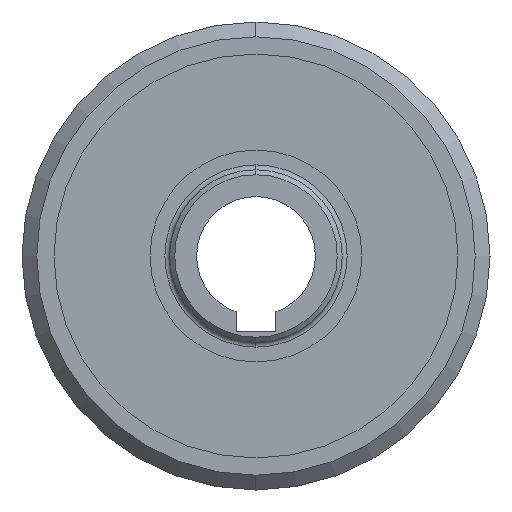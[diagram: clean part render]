
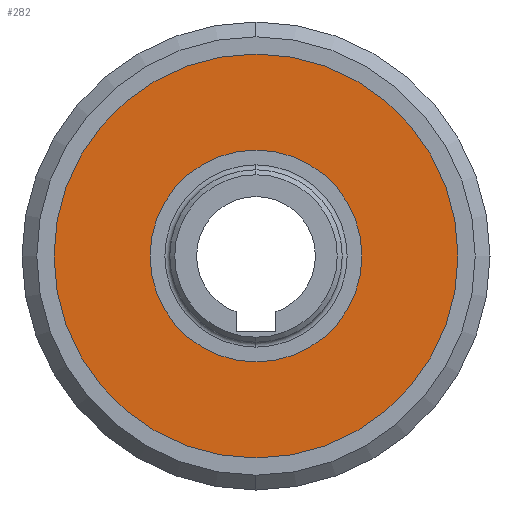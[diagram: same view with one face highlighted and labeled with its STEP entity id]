
A CAD part, left-side view. The second image highlights one B-rep face of the part: STEP entity #282.
In plain terms, the highlighted planar face has unit normal (-1, 0, 0).
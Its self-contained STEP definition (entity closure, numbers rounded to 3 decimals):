
#9 = DIRECTION ( 'NONE',  ( 1., 0., 0. ) ) ;
#26 = EDGE_CURVE ( 'NONE', #683, #30, #72, .T. ) ;
#30 = VERTEX_POINT ( 'NONE', #976 ) ;
#72 = CIRCLE ( 'NONE', #894, 21.5 ) ;
#142 = VERTEX_POINT ( 'NONE', #999 ) ;
#188 = VERTEX_POINT ( 'NONE', #752 ) ;
#228 = CARTESIAN_POINT ( 'NONE',  ( -89.5, 0., 0. ) ) ;
#240 = ORIENTED_EDGE ( 'NONE', *, *, #26, .F. ) ;
#249 = FACE_OUTER_BOUND ( 'NONE', #518, .T. ) ;
#255 = CARTESIAN_POINT ( 'NONE',  ( -89.5, 0., 0. ) ) ;
#278 = DIRECTION ( 'NONE',  ( -1., 0., 0. ) ) ;
#282 = ADVANCED_FACE ( 'NONE', ( #249, #605 ), #792, .F. ) ;
#307 = ORIENTED_EDGE ( 'NONE', *, *, #355, .T. ) ;
#352 = DIRECTION ( 'NONE',  ( 0., 0., -1. ) ) ;
#355 = EDGE_CURVE ( 'NONE', #188, #142, #823, .T. ) ;
#369 = EDGE_CURVE ( 'NONE', #30, #683, #847, .T. ) ;
#455 = AXIS2_PLACEMENT_3D ( 'NONE', #699, #278, #1038 ) ;
#518 = EDGE_LOOP ( 'NONE', ( #1008, #307 ) ) ;
#520 = EDGE_LOOP ( 'NONE', ( #240, #536 ) ) ;
#532 = CARTESIAN_POINT ( 'NONE',  ( -89.5, 0., 21.5 ) ) ;
#536 = ORIENTED_EDGE ( 'NONE', *, *, #369, .F. ) ;
#551 = DIRECTION ( 'NONE',  ( -1., 0., 0. ) ) ;
#599 = AXIS2_PLACEMENT_3D ( 'NONE', #255, #9, #352 ) ;
#605 = FACE_BOUND ( 'NONE', #520, .T. ) ;
#632 = CARTESIAN_POINT ( 'NONE',  ( -89.5, 0., 0. ) ) ;
#683 = VERTEX_POINT ( 'NONE', #532 ) ;
#694 = AXIS2_PLACEMENT_3D ( 'NONE', #228, #1097, #1083 ) ;
#699 = CARTESIAN_POINT ( 'NONE',  ( -89.5, 0., 0. ) ) ;
#752 = CARTESIAN_POINT ( 'NONE',  ( -89.5, 0., 41. ) ) ;
#792 = PLANE ( 'NONE',  #599 ) ;
#800 = DIRECTION ( 'NONE',  ( 0., 0., -1. ) ) ;
#823 = CIRCLE ( 'NONE', #1030, 41. ) ;
#847 = CIRCLE ( 'NONE', #455, 21.5 ) ;
#879 = DIRECTION ( 'NONE',  ( 0., 0., 1. ) ) ;
#894 = AXIS2_PLACEMENT_3D ( 'NONE', #1053, #1057, #879 ) ;
#976 = CARTESIAN_POINT ( 'NONE',  ( -89.5, 0., -21.5 ) ) ;
#978 = EDGE_CURVE ( 'NONE', #142, #188, #1066, .T. ) ;
#999 = CARTESIAN_POINT ( 'NONE',  ( -89.5, 0., -41. ) ) ;
#1008 = ORIENTED_EDGE ( 'NONE', *, *, #978, .T. ) ;
#1030 = AXIS2_PLACEMENT_3D ( 'NONE', #632, #551, #800 ) ;
#1038 = DIRECTION ( 'NONE',  ( 0., 0., 1. ) ) ;
#1053 = CARTESIAN_POINT ( 'NONE',  ( -89.5, 0., 0. ) ) ;
#1057 = DIRECTION ( 'NONE',  ( -1., 0., 0. ) ) ;
#1066 = CIRCLE ( 'NONE', #694, 41. ) ;
#1083 = DIRECTION ( 'NONE',  ( 0., 0., -1. ) ) ;
#1097 = DIRECTION ( 'NONE',  ( -1., 0., 0. ) ) ;
